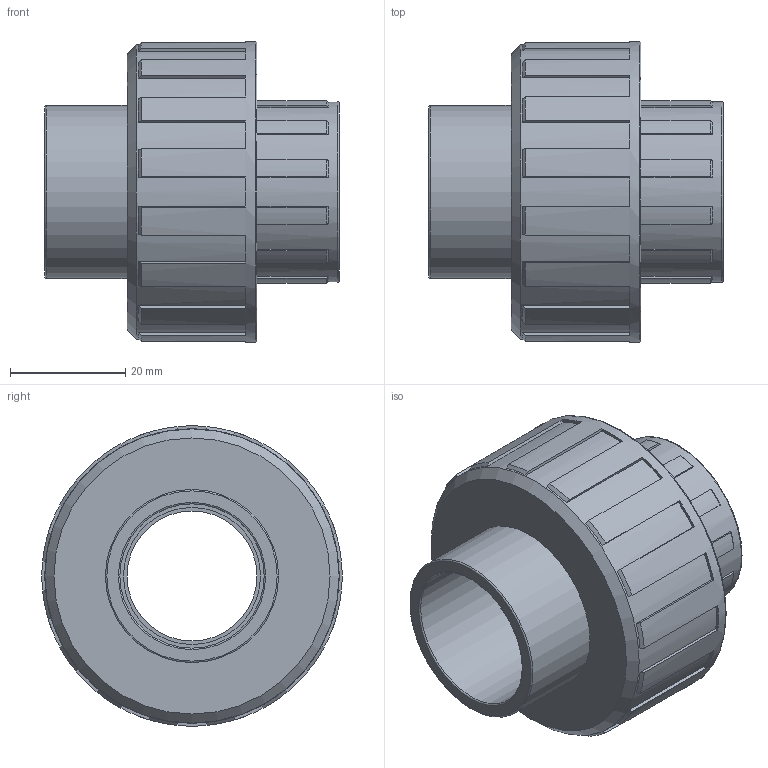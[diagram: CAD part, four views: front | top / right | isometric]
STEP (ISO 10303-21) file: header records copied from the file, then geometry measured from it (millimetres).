
FILE_DESCRIPTION(/* description */ ('PLASSON UNION+O RING-CEM PVC 25'),/* implementation_level */ '2;1');
FILE_NAME(/* name */ 'C:\Dropbox\KIMPROJECTS-Inventor\99-16-3568-Processing\PVC Catalog 2017\050800\050800025.ipt.stp',/* time_stamp */ '2017-12-07T15:57:44+02:00',/* author */ ('Кирилл'),/* organization */ (''),/* preprocessor_version */ 'ST-DEVELOPER v15.6',/* originating_system */ 'Autodesk Inventor 2015',/* authorisation */ '');
FILE_SCHEMA (('AUTOMOTIVE_DESIGN { 1 0 10303 214 3 1 1 }'));
Length unit declared in the file: millimetre
Products named in the file (1): 050800025
Bounding box: 51 x 52 x 52 mm (x, y, z)
Volume: 43911.8 mm3; surface area: 13928.5 mm2
Topology: 1 solids, 1 shells, 133 faces, 372 edges, 246 vertices
Faces by surface type: plane 79, cone 29, cylinder 20, torus 5
Full cylindrical faces by diameter (mm): 22.5 x1, 23.75 x1, 25 x2, 30 x1, 31.25 x1, 50.96 x1, 52 x1
Entity records: 4240 total; most frequent: DIRECTION 754, CARTESIAN_POINT 732, ORIENTED_EDGE 710, EDGE_CURVE 355, AXIS2_PLACEMENT_3D 265, VERTEX_POINT 243, LINE 224, VECTOR 224
